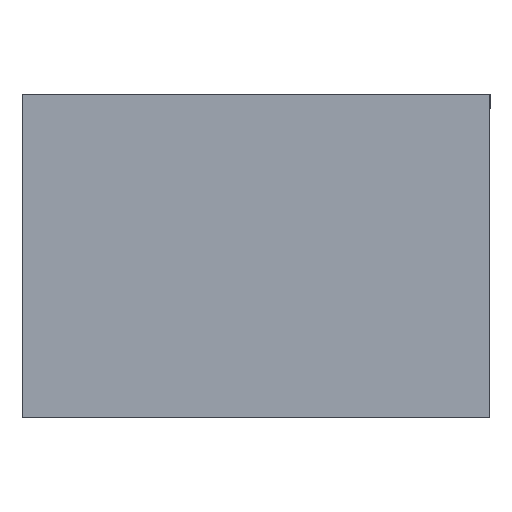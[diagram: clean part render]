
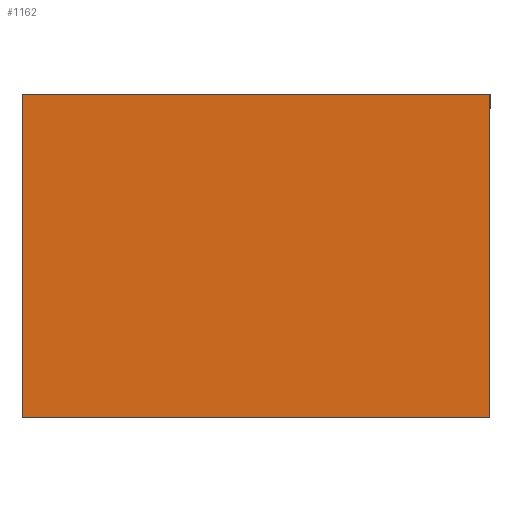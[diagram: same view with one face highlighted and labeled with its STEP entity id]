
A CAD part, front view. The second image highlights one B-rep face of the part: STEP entity #1162.
In plain terms, the highlighted planar face has unit normal (0, -1, 0).
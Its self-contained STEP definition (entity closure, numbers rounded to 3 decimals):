
#64 = DIRECTION ( 'NONE',  ( -1., 0., 0. ) ) ;
#124 = VECTOR ( 'NONE', #988, 1000. ) ;
#130 = ORIENTED_EDGE ( 'NONE', *, *, #1788, .F. ) ;
#195 = CARTESIAN_POINT ( 'NONE',  ( -32.5, 0., -22.5 ) ) ;
#216 = DIRECTION ( 'NONE',  ( 0., 0., 1. ) ) ;
#223 = DIRECTION ( 'NONE',  ( 0., 1., 0. ) ) ;
#287 = PLANE ( 'NONE',  #2200 ) ;
#297 = CARTESIAN_POINT ( 'NONE',  ( 0., 0., 0. ) ) ;
#323 = VECTOR ( 'NONE', #2022, 1000. ) ;
#405 = LINE ( 'NONE', #913, #323 ) ;
#485 = CARTESIAN_POINT ( 'NONE',  ( 32.5, 0., -22.5 ) ) ;
#572 = LINE ( 'NONE', #485, #124 ) ;
#642 = VERTEX_POINT ( 'NONE', #195 ) ;
#783 = CARTESIAN_POINT ( 'NONE',  ( -32.5, 0., 22.5 ) ) ;
#788 = DIRECTION ( 'NONE',  ( 0., 0., 1. ) ) ;
#846 = CARTESIAN_POINT ( 'NONE',  ( 32.5, 0., -22.5 ) ) ;
#913 = CARTESIAN_POINT ( 'NONE',  ( -32.5, 0., 22.5 ) ) ;
#939 = ORIENTED_EDGE ( 'NONE', *, *, #1677, .F. ) ;
#967 = VERTEX_POINT ( 'NONE', #783 ) ;
#988 = DIRECTION ( 'NONE',  ( 0., 0., -1. ) ) ;
#1068 = CARTESIAN_POINT ( 'NONE',  ( -32.5, 0., -22.5 ) ) ;
#1077 = VECTOR ( 'NONE', #64, 1000. ) ;
#1162 = ADVANCED_FACE ( 'NONE', ( #1935 ), #287, .F. ) ;
#1250 = CARTESIAN_POINT ( 'NONE',  ( -32.5, 0., -22.5 ) ) ;
#1253 = LINE ( 'NONE', #1068, #1077 ) ;
#1277 = EDGE_LOOP ( 'NONE', ( #1747, #939, #130, #1832 ) ) ;
#1611 = EDGE_CURVE ( 'NONE', #2256, #642, #1253, .T. ) ;
#1637 = VECTOR ( 'NONE', #788, 1000. ) ;
#1677 = EDGE_CURVE ( 'NONE', #967, #1724, #405, .T. ) ;
#1724 = VERTEX_POINT ( 'NONE', #2130 ) ;
#1747 = ORIENTED_EDGE ( 'NONE', *, *, #1838, .F. ) ;
#1788 = EDGE_CURVE ( 'NONE', #642, #967, #2288, .T. ) ;
#1832 = ORIENTED_EDGE ( 'NONE', *, *, #1611, .F. ) ;
#1838 = EDGE_CURVE ( 'NONE', #1724, #2256, #572, .T. ) ;
#1935 = FACE_OUTER_BOUND ( 'NONE', #1277, .T. ) ;
#2022 = DIRECTION ( 'NONE',  ( 1., 0., 0. ) ) ;
#2130 = CARTESIAN_POINT ( 'NONE',  ( 32.5, 0., 22.5 ) ) ;
#2200 = AXIS2_PLACEMENT_3D ( 'NONE', #297, #223, #216 ) ;
#2256 = VERTEX_POINT ( 'NONE', #846 ) ;
#2288 = LINE ( 'NONE', #1250, #1637 ) ;
